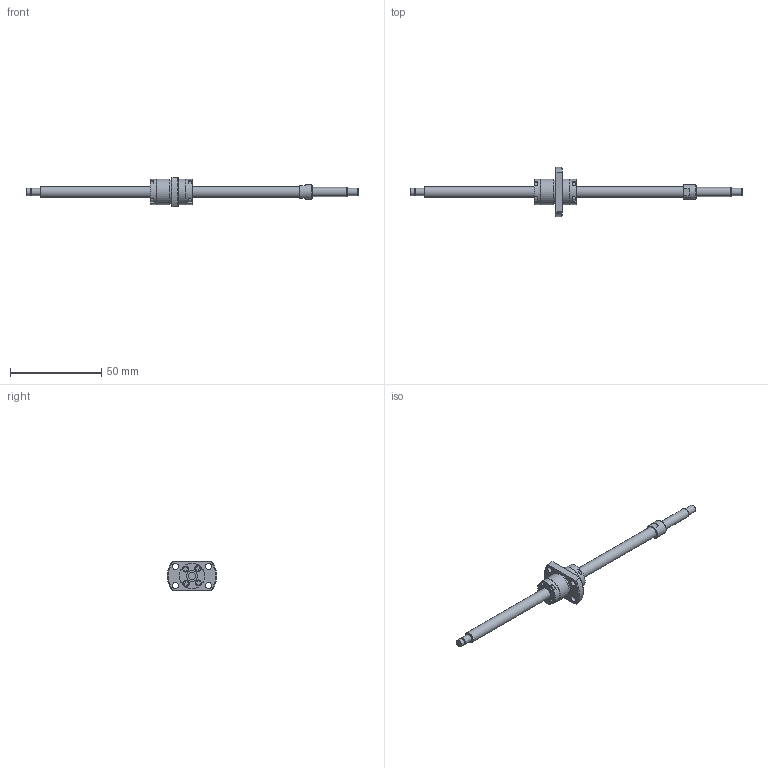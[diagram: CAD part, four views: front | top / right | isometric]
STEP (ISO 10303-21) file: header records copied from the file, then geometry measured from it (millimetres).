
FILE_DESCRIPTION(/* description */ ('STEP AP214'),/* implementation_level */ '2;1');
FILE_NAME(/* name */ 'SRT0610-138R182C7B0X(60Processing)',/* time_stamp */ '2026-08-04T17:57:24+02:00',/* author */ ('License CC BY-ND 4.0'),/* organization */ ('CADENAS'),/* preprocessor_version */ 'ST-DEVELOPER v20',/* originating_system */ 'PARTsolutions',/* authorisation */ ' ');
FILE_SCHEMA (('AUTOMOTIVE_DESIGN {1 0 10303 214 3 1 1}'));
Length unit declared in the file: millimetre
Products named in the file (3): SRT0610-138R182C7B0X(60Processing); SRT0610-138R220BCt7Processing25Shaft; SRT0610Nut
Assembly tree (2 placements, depth 2):
  SRT0610-138R182C7B0X(60Processing)
    SRT0610-138R220BCt7Processing25Shaft
    SRT0610Nut
Bounding box: 182 x 27 x 16 mm (x, y, z)
Volume: 8518.1 mm3; surface area: 6079.5 mm2
Topology: 2 solids, 2 shells, 154 faces, 363 edges, 240 vertices
Faces by surface type: plane 109, cylinder 35, cone 9, torus 1
Full cylindrical faces by diameter (mm): 3 x8, 3.4 x4, 3.7 x1, 4 x3, 5 x1, 6 x2, 8 x1, 13.6 x1, 13.8 x2, 14 x2
Entity records: 4337 total; most frequent: CARTESIAN_POINT 747, DIRECTION 732, ORIENTED_EDGE 658, EDGE_CURVE 329, AXIS2_PLACEMENT_3D 254, VERTEX_POINT 237, LINE 224, VECTOR 224
